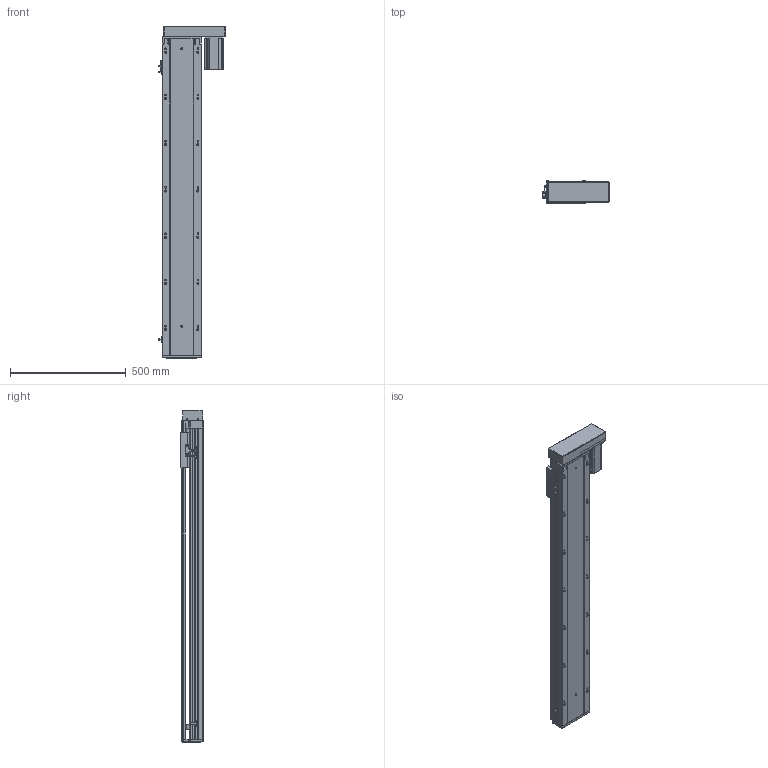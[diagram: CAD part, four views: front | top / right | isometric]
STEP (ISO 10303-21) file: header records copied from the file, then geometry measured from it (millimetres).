
FILE_DESCRIPTION (( 'STEP AP203' ), '1' );
FILE_NAME ('RY170-L2510-1400-RK.SLDASM_1100.step', '2021-03-12T09:37:54', ( '盈信电脑' ), ( '东莞市道滘镇水果街19号' ), 'SwSTEP 2.0', 'SolidWorks 2012', '' );
FILE_SCHEMA (( 'CONFIG_CONTROL_DESIGN' ));
Length unit declared in the file: millimetre
Products named in the file (13): 覜茼ん672; RY170-L2510-1400-RK.SLDASM_1100; RY170外置感应片(200共用）; RY170-左右折电机安装板750W; RY170-酘衵殏750W萇儂傷; 怢湛750W萇儂ㄗ80遺ㄘ; RY170酘衵殏萇儂欶750W; RY170转折电机端支撑座(7004); 滅袉蝶18-20; RY170綴裔啣; 改造-RY170铝滑块25丝杆螺母; RY170-1400倰第菁釱-LK_1100; RY170-1400倰第裔啣-LK_1100
Assembly tree (15 placements, depth 3):
  RY170-L2510-1400-RK.SLDASM_1100
    RY170-1400倰第菁釱-LK_1100
    改造-RY170铝滑块25丝杆螺母
    RY170-1400倰第裔啣-LK_1100
    RY170綴裔啣
    滅袉蝶18-20  x2
    RY170转折电机端支撑座(7004)
    RY170-酘衵殏750W萇儂傷
      RY170-左右折电机安装板750W
      RY170酘衵殏萇儂欶750W
      怢湛750W萇儂ㄗ80遺ㄘ
    覜茼ん672  x3
    RY170外置感应片(200共用）
Bounding box: 286.2 x 97 x 1435 mm (x, y, z)
Volume: 7760987.3 mm3; surface area: 2444671.4 mm2
Topology: 14 solids, 14 shells, 2209 faces, 6310 edges, 4040 vertices
Faces by surface type: plane 1088, cylinder 908, cone 194, bspline 19
Entity records: 70762 total; most frequent: CARTESIAN_POINT 16858, ORIENTED_EDGE 11288, DIRECTION 10506, EDGE_CURVE 5644, VERTEX_POINT 3708, AXIS2_PLACEMENT_3D 3506, LINE 3494, VECTOR 3494
